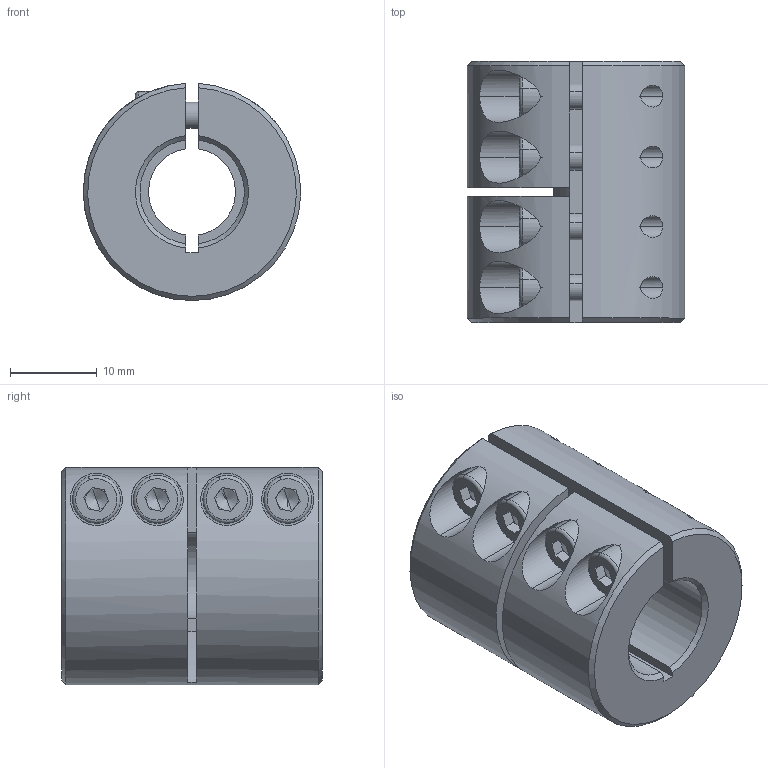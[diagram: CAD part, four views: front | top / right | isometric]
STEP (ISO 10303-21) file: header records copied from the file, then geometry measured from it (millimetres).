
FILE_DESCRIPTION (( 'STEP AP214' ), '1' );
FILE_NAME ('LL-B-D25L30-10-12½¨Ä£.STEP', '2022-07-21T03:20:01', ( '' ), ( '' ), 'SwSTEP 2.0', 'SolidWorks 2022', '' );
FILE_SCHEMA (( 'AUTOMOTIVE_DESIGN' ));
Length unit declared in the file: millimetre
Products named in the file (1): LL-B-D25L30-10-12膘耀
Bounding box: 24.99 x 30 x 24.98 mm (x, y, z)
Volume: 10868.5 mm3; surface area: 5893.9 mm2
Topology: 1 solids, 1 shells, 164 faces, 418 edges, 264 vertices
Faces by surface type: plane 83, cylinder 58, cone 15, torus 8
Entity records: 5402 total; most frequent: CARTESIAN_POINT 1363, DIRECTION 862, ORIENTED_EDGE 820, EDGE_CURVE 410, AXIS2_PLACEMENT_3D 331, VERTEX_POINT 264, LINE 200, VECTOR 200
